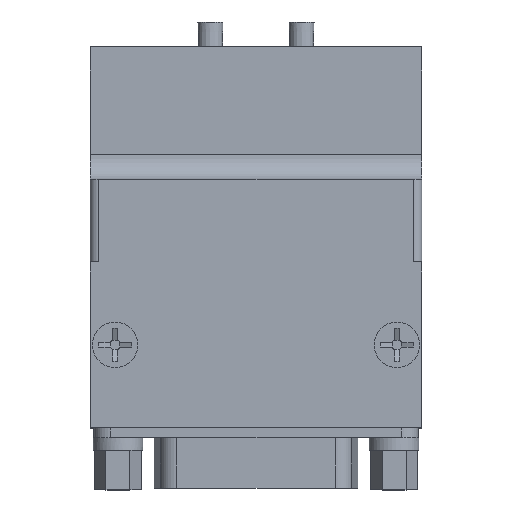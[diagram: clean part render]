
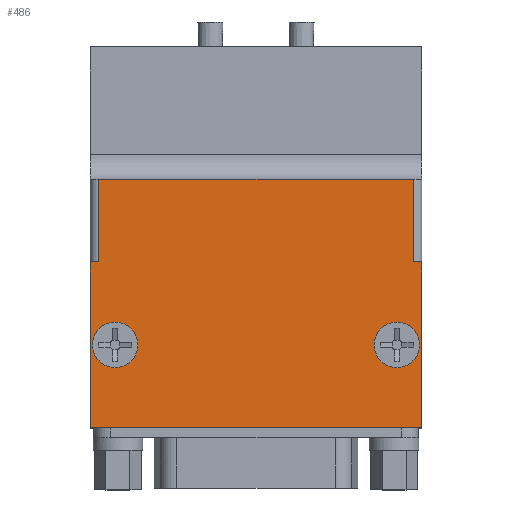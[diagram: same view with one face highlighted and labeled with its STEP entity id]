
A CAD part, top view. The second image highlights one B-rep face of the part: STEP entity #486.
In plain terms, the highlighted planar face has unit normal (0, 0, 1).
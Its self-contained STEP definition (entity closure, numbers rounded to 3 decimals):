
#486=ADVANCED_FACE('',(#1269,#1270,#1271),#1272,.T.);
#1269=FACE_BOUND('',#2496,.T.);
#1270=FACE_BOUND('',#2497,.T.);
#1271=FACE_OUTER_BOUND('',#2498,.T.);
#1272=PLANE('',#2499);
#2496=EDGE_LOOP('',(#3981));
#2497=EDGE_LOOP('',(#3982));
#2498=EDGE_LOOP('',(#3983,#3984,#3985,#3986,#3987,#3988,#3989,#3990));
#2499=AXIS2_PLACEMENT_3D('',#3991,#3992,#3993);
#3981=ORIENTED_EDGE('',*,*,#6311,.F.);
#3982=ORIENTED_EDGE('',*,*,#6308,.F.);
#3983=ORIENTED_EDGE('',*,*,#6313,.T.);
#3984=ORIENTED_EDGE('',*,*,#6314,.T.);
#3985=ORIENTED_EDGE('',*,*,#6315,.T.);
#3986=ORIENTED_EDGE('',*,*,#6316,.T.);
#3987=ORIENTED_EDGE('',*,*,#6317,.T.);
#3988=ORIENTED_EDGE('',*,*,#6318,.T.);
#3989=ORIENTED_EDGE('',*,*,#6319,.T.);
#3990=ORIENTED_EDGE('',*,*,#6320,.T.);
#3991=CARTESIAN_POINT('',(20.,-26.0,26.5));
#3992=DIRECTION('',(0.,0.,1.0));
#3993=DIRECTION('',(0.0,-1.0,0.));
#6308=EDGE_CURVE('',#7369,#7369,#7370,.T.);
#6311=EDGE_CURVE('',#7374,#7374,#7375,.T.);
#6313=EDGE_CURVE('',#7377,#7378,#7379,.T.);
#6314=EDGE_CURVE('',#7378,#7380,#7381,.T.);
#6315=EDGE_CURVE('',#7380,#7382,#7383,.T.);
#6316=EDGE_CURVE('',#7382,#7384,#7385,.T.);
#6317=EDGE_CURVE('',#7384,#7386,#7387,.T.);
#6318=EDGE_CURVE('',#7386,#7388,#7389,.T.);
#6319=EDGE_CURVE('',#7388,#7390,#7391,.T.);
#6320=EDGE_CURVE('',#7390,#7377,#7392,.T.);
#7369=VERTEX_POINT('',#8866);
#7370=CIRCLE('',#8867,2.75);
#7374=VERTEX_POINT('',#8871);
#7375=CIRCLE('',#8872,2.75);
#7377=VERTEX_POINT('',#8874);
#7378=VERTEX_POINT('',#8875);
#7379=LINE('',#8876,#8877);
#7380=VERTEX_POINT('',#8878);
#7381=LINE('',#8879,#8880);
#7382=VERTEX_POINT('',#8881);
#7383=LINE('',#8882,#8883);
#7384=VERTEX_POINT('',#8884);
#7385=LINE('',#8885,#8886);
#7386=VERTEX_POINT('',#8887);
#7387=LINE('',#8888,#8889);
#7388=VERTEX_POINT('',#8890);
#7389=LINE('',#8891,#8892);
#7390=VERTEX_POINT('',#8893);
#7391=LINE('',#8894,#8895);
#7392=LINE('',#8896,#8897);
#8866=CARTESIAN_POINT('',(-14.25,-36.0,26.5));
#8867=AXIS2_PLACEMENT_3D('',#10500,#10501,#10502);
#8871=CARTESIAN_POINT('',(19.75,-36.0,26.5));
#8872=AXIS2_PLACEMENT_3D('',#10506,#10507,#10508);
#8874=CARTESIAN_POINT('',(20.,-46.,26.5));
#8875=CARTESIAN_POINT('',(20.,-26.0,26.5));
#8876=CARTESIAN_POINT('',(20.,-46.,26.5));
#8877=VECTOR('',#10509,1.0);
#8878=CARTESIAN_POINT('',(19.,-26.0,26.5));
#8879=CARTESIAN_POINT('',(20.,-26.0,26.5));
#8880=VECTOR('',#10510,1.0);
#8881=CARTESIAN_POINT('',(19.,-16.0,26.5));
#8882=CARTESIAN_POINT('',(19.,-26.0,26.5));
#8883=VECTOR('',#10511,1.0);
#8884=CARTESIAN_POINT('',(-19.,-16.0,26.5));
#8885=CARTESIAN_POINT('',(20.,-16.0,26.5));
#8886=VECTOR('',#10512,1.0);
#8887=CARTESIAN_POINT('',(-19.,-26.0,26.5));
#8888=CARTESIAN_POINT('',(-19.,-26.0,26.5));
#8889=VECTOR('',#10513,1.0);
#8890=CARTESIAN_POINT('',(-20.,-26.0,26.5));
#8891=CARTESIAN_POINT('',(20.,-26.0,26.5));
#8892=VECTOR('',#10514,1.0);
#8893=CARTESIAN_POINT('',(-20.,-46.,26.5));
#8894=CARTESIAN_POINT('',(-20.,-26.0,26.5));
#8895=VECTOR('',#10515,1.0);
#8896=CARTESIAN_POINT('',(-20.,-46.,26.5));
#8897=VECTOR('',#10516,1.0);
#10500=CARTESIAN_POINT('',(-17.0,-36.0,26.5));
#10501=DIRECTION('',(0.,0.0,1.0));
#10502=DIRECTION('',(1.0,0.0,0.));
#10506=CARTESIAN_POINT('',(17.0,-36.0,26.5));
#10507=DIRECTION('',(0.,0.0,1.0));
#10508=DIRECTION('',(1.0,0.0,0.));
#10509=DIRECTION('',(0.,1.0,0.));
#10510=DIRECTION('',(-1.0,0.,0.));
#10511=DIRECTION('',(0.0,1.0,0.0));
#10512=DIRECTION('',(-1.0,0.0,0.0));
#10513=DIRECTION('',(0.0,-1.0,0.0));
#10514=DIRECTION('',(-1.0,0.,0.));
#10515=DIRECTION('',(0.,-1.0,0.));
#10516=DIRECTION('',(1.0,0.,0.));
